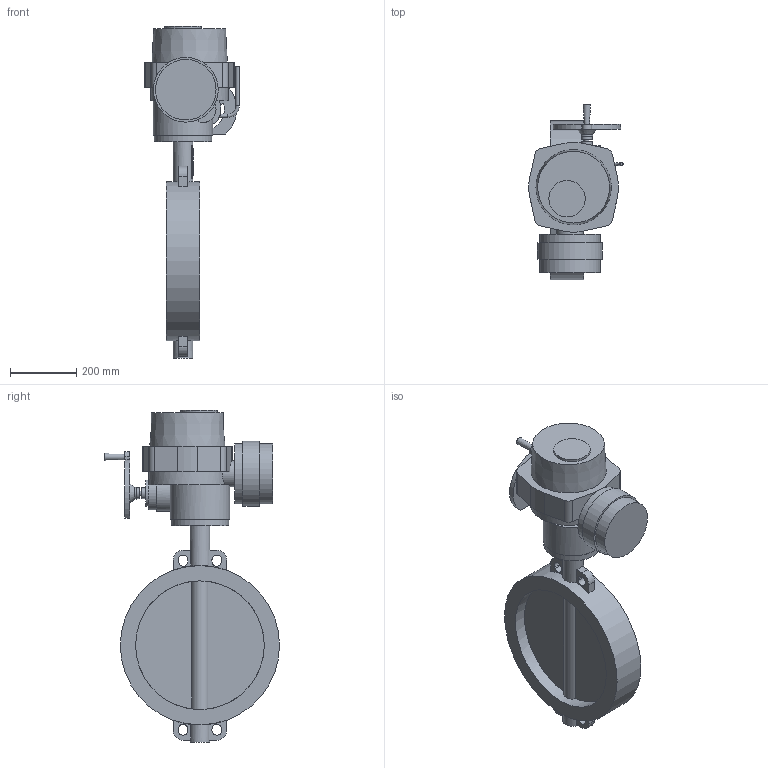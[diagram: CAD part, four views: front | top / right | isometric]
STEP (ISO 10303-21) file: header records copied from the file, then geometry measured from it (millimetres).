
FILE_DESCRIPTION(('STEP AP203'), '1');
FILE_NAME('青蜮铕 017W.ZS DN400+菹 QT.A120', '', ('UNSPECIFIED'), ('UNSPECIFIED'), 'ASCON STEP Converter 1.6', 'ASCON Math Kernel', '');
FILE_SCHEMA(('CONFIG_CONTROL_DESIGN'));
Length unit declared in the file: millimetre
Bounding box: 285.64 x 530 x 1005 mm (x, y, z)
Volume: 28751480.2 mm3; surface area: 1279039.8 mm2
Topology: 1 solids, 1 shells, 853 faces, 2412 edges, 1603 vertices
Faces by surface type: cylinder 618, plane 231, cone 3, torus 1
Full cylindrical faces by diameter (mm): 10 x6, 16 x1, 18 x4, 32 x2, 35 x1, 60 x2, 80 x2, 100 x1, 110 x1, 175 x1, 180 x1, 183 x2, 196 x1, 389.6 x2, 482 x1
Entity records: 36123 total; most frequent: CARTESIAN_POINT 5989, DIRECTION 5348, ORIENTED_EDGE 4760, EDGE_CURVE 2380, AXIS2_PLACEMENT_3D 2134, VERTEX_POINT 1603, CIRCLE 1280, LINE 1080
